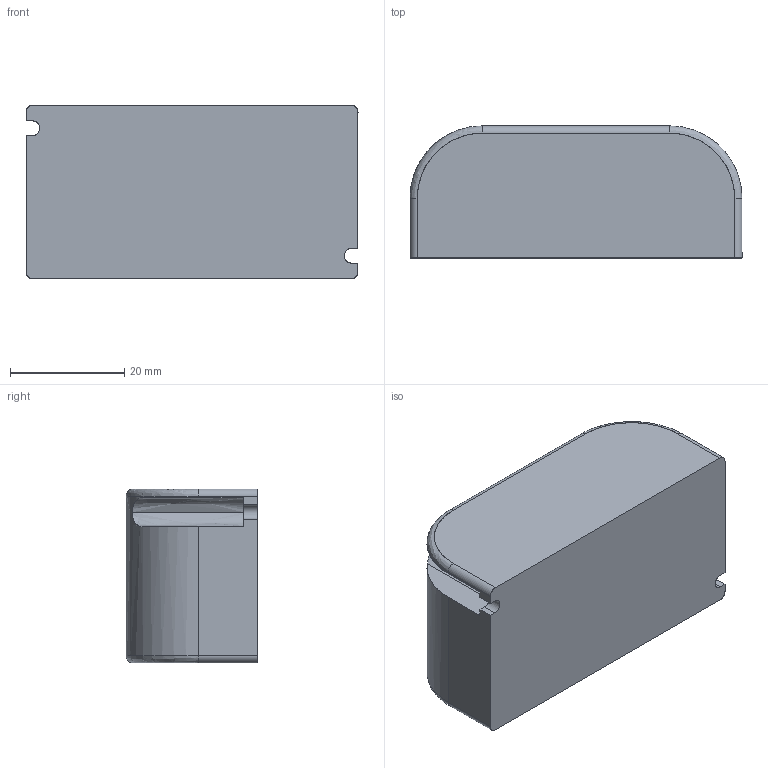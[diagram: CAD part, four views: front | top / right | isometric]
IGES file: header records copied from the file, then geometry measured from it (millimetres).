
Start section: SolidWorks IGES file using analytic representation for surfaces
Global section: file name: C:\Users\jopel\OneDrive - Bayou Metal Supply\Documents\Delete_Me\Aceleds\AC15CD350AT2S\AC15CD350AT2S.IGS; native system: SolidWorks 2024; preprocessor: SolidWorks 2024; author: jopel; date: 250514.064657; units: inch
Bounding box: 58.17 x 23.11 x 30.48 mm (x, y, z)
Surface area: 7505.4 mm2 (no closed solid volume)
Topology: 0 solids, 0 shells, 36 faces, 486 edges, 580 vertices
Faces by surface type: bspline 22, revolution 14
